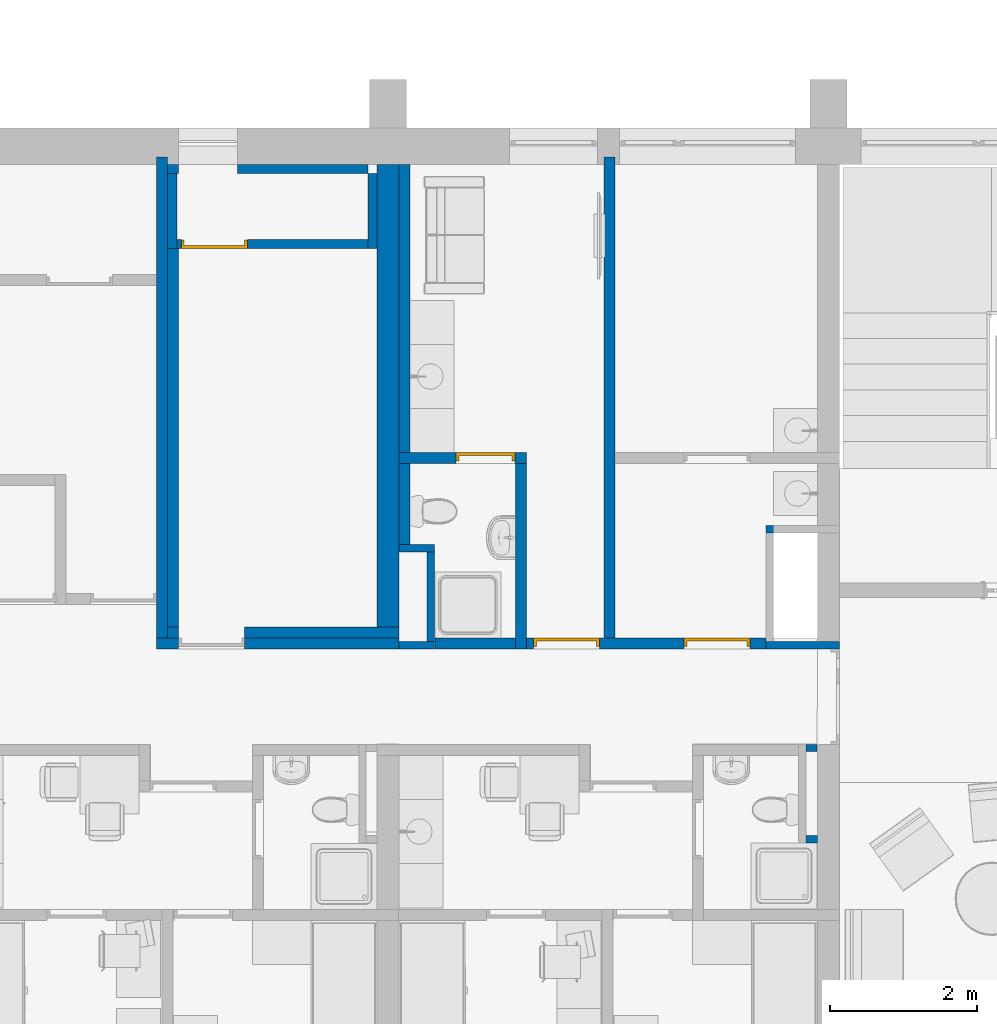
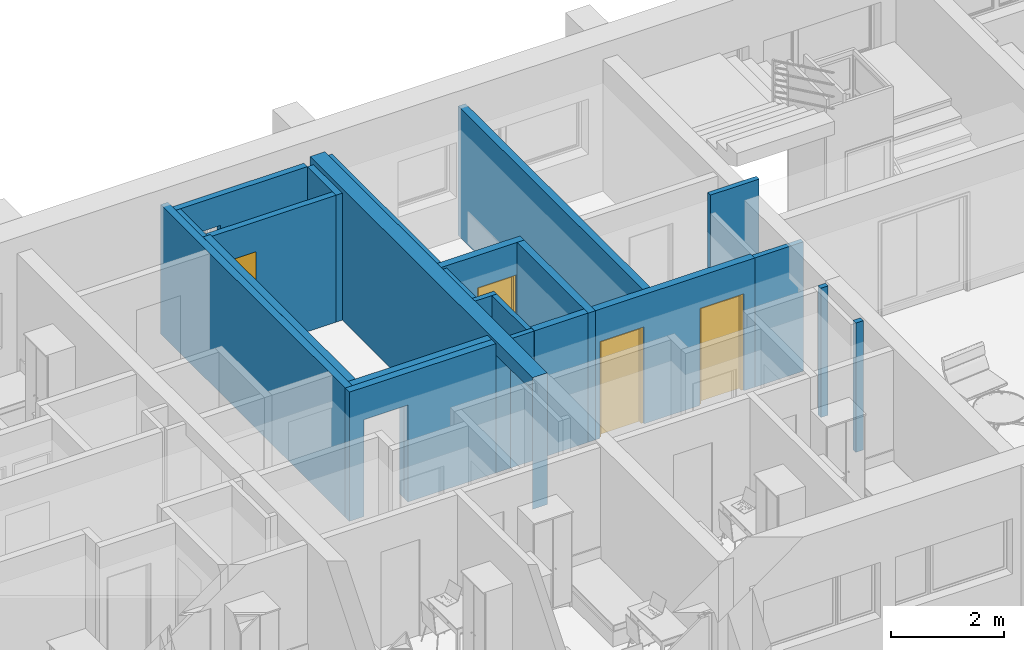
# One storey, part 12 of 165: 21 walls, 4 doors, 8 openings.
"""IFC2X3 building model written with IfcOpenShell, lengths in millimetres."""

from ifc_helpers import new_model, entity, si_unit, converted_unit, money_unit, direction, frame, origin_with_axes, place, context, subcontext, project, spatial, polyline, outline, extrude, faceted_brep, source, transform, mapped, material, material_list, layer, layer_set, layer_usage, type_object, element, fill, save


model = new_model("IFC2X3")

# Units and contexts
model_context = context("Model", 3, precision=1e-05, world=origin_with_axes(), true_north=direction((0.0, 1.0)))
body_context = subcontext(model_context, "Body", "Model", "MODEL_VIEW")
ifc_project = project(units=[si_unit("LENGTHUNIT", "METRE", prefix="MILLI"), si_unit("AREAUNIT", "SQUARE_METRE"), si_unit("VOLUMEUNIT", "CUBIC_METRE"), converted_unit("PLANEANGLEUNIT", "DEGREE", entity("IfcPlaneAngleMeasure", 0.0174532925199), si_unit("PLANEANGLEUNIT", "RADIAN"), dimensions=[0, 0, 0, 0, 0, 0, 0]), si_unit("SOLIDANGLEUNIT", "STERADIAN"), money_unit("USD"), converted_unit("TIMEUNIT", "Year", entity("IfcTimeMeasure", 31556926.0), si_unit("TIMEUNIT", "SECOND"), dimensions=[0, 0, 0, 0, 0, 0, 0]), si_unit("MASSUNIT", "GRAM"), si_unit("THERMODYNAMICTEMPERATUREUNIT", "DEGREE_CELSIUS"), si_unit("LUMINOUSINTENSITYUNIT", "LUMEN")], contexts=[model_context])

# Site, building, storey
site_placement = place(None, origin_with_axes())
site = spatial("IfcSite", under=ifc_project, at=site_placement, Name="Site", CompositionType="ELEMENT")
building_placement = place(site_placement, origin_with_axes())
building = spatial("IfcBuilding", under=site, at=building_placement, Name="Building", CompositionType="ELEMENT")
storey_placement = place(building_placement, frame((0.0, 0.0, 6300.0), z_axis=(0.0, 0.0, 1.0), x_axis=(1.0, 0.0, 0.0)))
storey = spatial("IfcBuildingStorey", under=building, at=storey_placement, Name="4KORRUS", CompositionType="ELEMENT", Elevation=6300.0)

# Wall
ifc_material_1 = material(Name="UmbKipsplaat")
ifc_layer_1 = layer(ifc_material_1, 13.0, ventilated="UNKNOWN")
ifc_layer_2 = layer(ifc_material_1, 13.0, ventilated="UNKNOWN")
ifc_material_2 = material(Name="SOOJUSTUS MINERAALVILL")
ifc_layer_3 = layer(ifc_material_2, 98.0, ventilated="UNKNOWN")
ifc_layer_4 = layer(ifc_material_1, 13.0, ventilated="UNKNOWN")
ifc_layer_5 = layer(ifc_material_1, 13.0, ventilated="UNKNOWN")
ifc_layer_set_1 = layer_set([ifc_layer_1, ifc_layer_2, ifc_layer_3, ifc_layer_4, ifc_layer_5], Name="kipssein150")
ifc_layer_usage_1 = layer_usage(ifc_layer_set_1, "AXIS2", "POSITIVE", -150.0)
wall_type_1 = type_object("IfcWallType", Name="kipssein150 150", PredefinedType="NOTDEFINED")
wall_1_placement = place(storey_placement, frame((-16253.5225768, -9065.57320461, 0.0), z_axis=(0.0, 0.0, 1.0), x_axis=(0.0, -1.0, 0.0)))
element("IfcWallStandardCase", 1, at=wall_1_placement, inside=storey, type_object=wall_type_1, material=ifc_layer_usage_1, Name="SS1", ObjectType="SS1", context=body_context, shape_type="SweptSolid", body=[
    extrude(outline(polyline([(0.0, -150.0), (2673.66669481, -150.0), (2673.66669481, 0.0), (0.0, 0.0), (0.0, -150.0)])), origin_with_axes(), (0.0, 0.0, 1.0), 2800.0),
])

# Wall, opening
ifc_layer_usage_2 = layer_usage(ifc_layer_set_1, "AXIS2", "POSITIVE", 0.0)
wall_2_placement = place(storey_placement, frame((-21143.5981675, -11589.1092262, 0.0), z_axis=(0.0, 0.0, 1.0), x_axis=(1.0, 0.0, 0.0)))
wall_2 = element("IfcWallStandardCase", 2, at=wall_2_placement, inside=storey, type_object=wall_type_1, material=ifc_layer_usage_2, Name="SS1", ObjectType="SS1", context=body_context, shape_type="SweptSolid", body=[
    extrude(outline(polyline([(0.0, 0.0), (3153.30146423, 0.0), (3153.30146423, 150.0), (0.0, 150.0), (0.0, 0.0)])), origin_with_axes(), (0.0, 0.0, 1.0), 2800.0),
])
opening_1_placement = place(wall_2_placement, frame((599.798388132, 0.0, 0.0), z_axis=(0.0, 0.0, 1.0), x_axis=(1.0, 0.0, 0.0)))
element("IfcOpeningElement", 3, at=opening_1_placement, cuts=wall_2, Name="DOO - 001", context=body_context, shape_type="SweptSolid", body=[
    extrude(outline(polyline([(-450.0, 0.0), (-450.0, -2100.0), (450.0, -2100.0), (450.0, 0.0), (-450.0, 0.0)])), frame((0.0, 150.0, 0.0), z_axis=(0.0, 1.0, 0.0), x_axis=(1.0, 0.0, 0.0)), (0.0, 0.0, 1.0), 150.0),
    extrude(outline(polyline([(-450.0, 2100.0), (-450.0, 0.0), (450.0, 0.0), (450.0, 2100.0), (-450.0, 2100.0)])), frame((0.0, 150.0, 0.0), z_axis=(0.0, -1.0, 0.0), x_axis=(1.0, 0.0, 0.0)), (0.0, 0.0, 1.0), 150.0),
])

# Wall
ifc_layer_usage_3 = layer_usage(ifc_layer_set_1, "AXIS2", "POSITIVE", -150.0)
wall_3_placement = place(storey_placement, frame((-21143.5981675, -11589.1092262, 0.0), z_axis=(0.0, 0.0, 1.0), x_axis=(0.0, 1.0, 0.0)))
element("IfcWallStandardCase", 4, at=wall_3_placement, inside=storey, type_object=wall_type_1, material=ifc_layer_usage_3, Name="SS1", ObjectType="SS1", context=body_context, shape_type="SweptSolid", body=[
    extrude(outline(polyline([(0.0, -150.0), (5305.50511743, -150.0), (5305.50511743, 0.0), (0.0, 0.0), (0.0, -150.0)])), origin_with_axes(), (0.0, 0.0, 1.0), 2800.0),
])

# Wall, opening
ifc_layer_usage_4 = layer_usage(ifc_layer_set_1, "AXIS2", "POSITIVE", 0.0)
wall_4_placement = place(storey_placement, frame((-21293.7997794, -11739.1092262, 0.0), z_axis=(0.0, 0.0, 1.0), x_axis=(1.0, 0.0, 0.0)))
wall_4 = element("IfcWallStandardCase", 5, at=wall_4_placement, inside=storey, type_object=wall_type_1, material=ifc_layer_usage_4, Name="SS1", ObjectType="SS1", context=body_context, shape_type="SweptSolid", body=[
    extrude(outline(polyline([(0.0, 0.0), (3303.5030761, 0.0), (3303.5030761, 150.0), (0.0, 150.0), (0.0, 0.0)])), origin_with_axes(), (0.0, 0.0, 1.0), 2800.0),
])
opening_2_placement = place(wall_4_placement, frame((750.0, 0.0, 0.0), z_axis=(0.0, 0.0, 1.0), x_axis=(1.0, 0.0, 0.0)))
element("IfcOpeningElement", 6, at=opening_2_placement, cuts=wall_4, Name="SU2-1", context=body_context, shape_type="SweptSolid", body=[
    extrude(outline(polyline([(-450.0, 0.0), (450.0, 0.0), (450.0, 2100.0), (-450.0, 2100.0), (-450.0, 0.0)])), frame((0.0, -150.0, 0.0), z_axis=(0.0, 1.0, 0.0), x_axis=(-1.0, 0.0, 0.0)), (0.0, 0.0, 1.0), 450.0),
])

# Wall
ifc_layer_usage_5 = layer_usage(ifc_layer_set_1, "AXIS2", "POSITIVE", -150.0)
wall_5_placement = place(storey_placement, frame((-15047.2967033, -5039.6041088, 0.0), z_axis=(0.0, 0.0, 1.0), x_axis=(0.0, -1.0, 0.0)))
element("IfcWallStandardCase", 7, at=wall_5_placement, inside=storey, type_object=wall_type_1, material=ifc_layer_usage_5, Name="SS1", ObjectType="SS1", context=body_context, shape_type="SweptSolid", body=[
    extrude(outline(polyline([(0.0, -150.0), (6699.63579061, -150.0), (6699.63579061, 0.0), (0.0, 0.0), (0.0, -150.0)])), origin_with_axes(), (0.0, 0.0, 1.0), 2800.0),
])

# Wall, opening, door
ifc_layer_usage_6 = layer_usage(ifc_layer_set_1, "AXIS2", "POSITIVE", 0.0)
wall_6_placement = place(storey_placement, frame((-16253.5225768, -9065.57320461, 0.0), z_axis=(0.0, 0.0, 1.0), x_axis=(-1.0, 0.0, 0.0)))
wall_6 = element("IfcWallStandardCase", 8, at=wall_6_placement, inside=storey, type_object=wall_type_1, material=ifc_layer_usage_6, Name="SS1", ObjectType="SS1", context=body_context, shape_type="SweptSolid", body=[
    extrude(outline(polyline([(0.0, 0.0), (1736.77412653, 0.0), (1736.77412653, 150.0), (0.0, 150.0), (0.0, 0.0)])), origin_with_axes(), (0.0, 0.0, 1.0), 2800.0),
])
opening_3_placement = place(wall_6_placement, frame((560.469369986, 0.0, 0.0), z_axis=(0.0, 0.0, 1.0), x_axis=(1.0, 0.0, 0.0)))
opening_3 = element("IfcOpeningElement", 9, at=opening_3_placement, cuts=wall_6, Name="SU3-5", context=body_context, shape_type="SweptSolid", body=[
    extrude(outline(polyline([(-400.0, -2100.0), (400.0, -2100.0), (400.0, 0.0), (-400.0, 0.0), (-400.0, -2100.0)])), frame((0.0, 150.0, 0.0), z_axis=(0.0, 1.0, 0.0), x_axis=(1.0, 0.0, 0.0)), (0.0, 0.0, -1.0), 450.0),
])
ifc_material_3 = material(Name="Background")
ifc_material_list = material_list([ifc_material_3])
door_style_1 = type_object("IfcDoorStyle", Name="Door 19", ConstructionType="NOTDEFINED", OperationType="SINGLE_SWING_LEFT", ParameterTakesPrecedence=False, Sizeable=False)
shared_shape_1 = source(origin_with_axes(), body_context, "Body", "Brep", [
    faceted_brep([(360.0, -40.0, 0.0), (360.0, -115.0, 0.0), (360.0, -115.0, 2060.0), (360.0, -40.0, 2060.0), (372.0, -40.0, 0.0), (372.0, 0.0, 0.0), (400.0, 0.0, 0.0), (400.0, -115.0, 0.0), (400.0, -115.0, 2060.0), (372.0, -40.0, 2060.0), (400.0, 0.0, 2060.0), (372.0, 0.0, 2060.0)], [[[0, 1, 2, 3]], [[4, 5, 6, 7, 1, 0]], [[2, 1, 7, 8]], [[9, 3, 2, 8, 10, 11]], [[9, 4, 0, 3]], [[11, 5, 4, 9]], [[11, 10, 6, 5]], [[7, 6, 10, 8]]]),
    faceted_brep([(-372.0, -40.0, 2060.0), (-372.0, 0.0, 2060.0), (-400.0, 0.0, 2060.0), (-400.0, -115.0, 2060.0), (-360.0, -115.0, 2060.0), (-360.0, -40.0, 2060.0), (-372.0, -40.0, 0.0), (-372.0, 0.0, 0.0), (-400.0, 0.0, 0.0), (-400.0, -115.0, 0.0), (-360.0, -115.0, 0.0), (-360.0, -40.0, 0.0)], [[[0, 1, 2, 3, 4, 5]], [[0, 6, 7, 1]], [[7, 8, 2, 1]], [[3, 2, 8, 9]], [[4, 3, 9, 10]], [[5, 4, 10, 11]], [[5, 11, 6, 0]], [[6, 11, 10, 9, 8, 7]]]),
    faceted_brep([(372.0, 0.0, 2072.0), (-372.0, 0.0, 2072.0), (-372.0, 0.0, 2060.0), (-400.0, 0.0, 2060.0), (-400.0, 0.0, 2100.0), (400.0, 0.0, 2100.0), (400.0, 0.0, 2060.0), (372.0, 0.0, 2060.0), (372.0, -40.0, 2072.0), (-372.0, -40.0, 2072.0), (-372.0, -40.0, 2060.0), (-360.0, -40.0, 2060.0), (-360.0, -115.0, 2060.0), (-400.0, -115.0, 2060.0), (-400.0, -115.0, 2100.0), (400.0, -115.0, 2100.0), (400.0, -115.0, 2060.0), (372.0, -40.0, 2060.0), (360.0, -115.0, 2060.0), (360.0, -40.0, 2060.0)], [[[0, 1, 2, 3, 4, 5, 6, 7]], [[0, 8, 9, 1]], [[1, 9, 10, 2]], [[10, 11, 12, 13, 3, 2]], [[14, 4, 3, 13]], [[15, 5, 4, 14]], [[16, 6, 5, 15]], [[17, 7, 6, 16, 18, 19]], [[7, 17, 8, 0]], [[10, 9, 8, 17, 19, 11]], [[19, 18, 12, 11]], [[13, 12, 18, 16, 15, 14]]]),
    faceted_brep([(-372.0, 0.0, 0.0), (372.0, 0.0, 0.0), (372.0, -40.0, 0.0), (-372.0, -40.0, 0.0), (-372.0, 0.0, 2072.0), (372.0, 0.0, 2072.0), (372.0, -40.0, 2072.0), (-372.0, -40.0, 2072.0)], [[[0, 1, 2, 3]], [[0, 4, 5, 1]], [[1, 5, 6, 2]], [[3, 2, 6, 7]], [[4, 0, 3, 7]], [[5, 4, 7, 6]]]),
])
door_1_placement = place(opening_3_placement, frame((400.0, 0.0, 0.0), z_axis=(0.0, 0.0, 1.0), x_axis=(-1.0, 0.0, 0.0)))
door_1 = element("IfcDoor", 10, at=door_1_placement, inside=storey, type_object=door_style_1, material=ifc_material_list, Name="SU3-5", ObjectType="Toa uks", OverallHeight=2100.0, OverallWidth=800.0, context=body_context, shape_type="MappedRepresentation", body=[
    mapped(shared_shape_1, transform((400.0, 0.0, 0.0))),
])
fill(opening_3, door_1)

# Wall
ifc_layer_usage_7 = layer_usage(ifc_layer_set_1, "AXIS2", "POSITIVE", -150.0)
wall_7_placement = place(storey_placement, frame((-21293.7997794, -11739.1092262, 0.0), z_axis=(0.0, 0.0, 1.0), x_axis=(0.0, 1.0, 0.0)))
element("IfcWallStandardCase", 11, at=wall_7_placement, inside=storey, type_object=wall_type_1, material=ifc_layer_usage_7, Name="SS1", ObjectType="SS1", context=body_context, shape_type="SweptSolid", body=[
    extrude(outline(polyline([(0.0, -150.0), (6699.50511743, -150.0), (6699.50511743, 0.0), (0.0, 0.0), (0.0, -150.0)])), origin_with_axes(), (0.0, 0.0, 1.0), 2800.0),
])

# Wall, openings, doors
ifc_layer_usage_8 = layer_usage(ifc_layer_set_1, "AXIS2", "POSITIVE", 0.0)
wall_8_placement = place(storey_placement, frame((-17503.5225768, -11739.2398994, 0.0), z_axis=(0.0, 0.0, 1.0), x_axis=(1.0, 0.0, 0.0)))
wall_8 = element("IfcWallStandardCase", 12, at=wall_8_placement, inside=storey, type_object=wall_type_1, material=ifc_layer_usage_8, Name="SS1", ObjectType="SS1", context=body_context, shape_type="SweptSolid", body=[
    extrude(outline(polyline([(0.0, 0.0), (4513.22587347, 0.0), (4513.22587347, 150.0), (0.0, 150.0), (0.0, 0.0)])), origin_with_axes(), (0.0, 0.0, 1.0), 2800.0),
])
opening_4_placement = place(wall_8_placement, frame((1794.55953234, 0.0, 0.0), z_axis=(0.0, 0.0, 1.0), x_axis=(1.0, 0.0, 0.0)))
opening_4 = element("IfcOpeningElement", 13, at=opening_4_placement, cuts=wall_8, Name="SU2-6", context=body_context, shape_type="SweptSolid", body=[
    extrude(outline(polyline([(-450.0, -2100.0), (450.0, -2100.0), (450.0, 0.0), (-450.0, 0.0), (-450.0, -2100.0)])), frame((0.0, -150.0, 0.0), z_axis=(0.0, -1.0, 0.0), x_axis=(-1.0, 0.0, 0.0)), (0.0, 0.0, -1.0), 450.0),
])
opening_5_placement = place(wall_8_placement, frame((3844.81533962, 0.0, 0.0), z_axis=(0.0, 0.0, 1.0), x_axis=(1.0, 0.0, 0.0)))
opening_5 = element("IfcOpeningElement", 14, at=opening_5_placement, cuts=wall_8, Name="SU2-5", context=body_context, shape_type="SweptSolid", body=[
    extrude(outline(polyline([(-450.0, -2100.0), (450.0, -2100.0), (450.0, 0.0), (-450.0, 0.0), (-450.0, -2100.0)])), frame((0.0, -150.0, 0.0), z_axis=(0.0, 1.0, 0.0), x_axis=(1.0, 0.0, 0.0)), (0.0, 0.0, 1.0), 450.0),
])
door_style_2 = type_object("IfcDoorStyle", Name="Door 19", ConstructionType="NOTDEFINED", OperationType="SINGLE_SWING_LEFT", ParameterTakesPrecedence=False, Sizeable=False)
shared_shape_2 = source(origin_with_axes(), body_context, "Body", "Brep", [
    faceted_brep([(410.0, -40.0, 0.0), (410.0, -115.0, 0.0), (410.0, -115.0, 2060.0), (410.0, -40.0, 2060.0), (422.0, -40.0, 0.0), (422.0, 0.0, 0.0), (450.0, 0.0, 0.0), (450.0, -115.0, 0.0), (450.0, -115.0, 2060.0), (422.0, -40.0, 2060.0), (450.0, 0.0, 2060.0), (422.0, 0.0, 2060.0)], [[[0, 1, 2, 3]], [[4, 5, 6, 7, 1, 0]], [[2, 1, 7, 8]], [[9, 3, 2, 8, 10, 11]], [[9, 4, 0, 3]], [[11, 5, 4, 9]], [[11, 10, 6, 5]], [[7, 6, 10, 8]]]),
    faceted_brep([(-422.0, -40.0, 2060.0), (-422.0, 0.0, 2060.0), (-450.0, 0.0, 2060.0), (-450.0, -115.0, 2060.0), (-410.0, -115.0, 2060.0), (-410.0, -40.0, 2060.0), (-422.0, -40.0, 0.0), (-422.0, 0.0, 0.0), (-450.0, 0.0, 0.0), (-450.0, -115.0, 0.0), (-410.0, -115.0, 0.0), (-410.0, -40.0, 0.0)], [[[0, 1, 2, 3, 4, 5]], [[0, 6, 7, 1]], [[7, 8, 2, 1]], [[3, 2, 8, 9]], [[4, 3, 9, 10]], [[5, 4, 10, 11]], [[5, 11, 6, 0]], [[6, 11, 10, 9, 8, 7]]]),
    faceted_brep([(422.0, 0.0, 2072.0), (-422.0, 0.0, 2072.0), (-422.0, 0.0, 2060.0), (-450.0, 0.0, 2060.0), (-450.0, 0.0, 2100.0), (450.0, 0.0, 2100.0), (450.0, 0.0, 2060.0), (422.0, 0.0, 2060.0), (422.0, -40.0, 2072.0), (-422.0, -40.0, 2072.0), (-422.0, -40.0, 2060.0), (-410.0, -40.0, 2060.0), (-410.0, -115.0, 2060.0), (-450.0, -115.0, 2060.0), (-450.0, -115.0, 2100.0), (450.0, -115.0, 2100.0), (450.0, -115.0, 2060.0), (422.0, -40.0, 2060.0), (410.0, -115.0, 2060.0), (410.0, -40.0, 2060.0)], [[[0, 1, 2, 3, 4, 5, 6, 7]], [[0, 8, 9, 1]], [[1, 9, 10, 2]], [[10, 11, 12, 13, 3, 2]], [[14, 4, 3, 13]], [[15, 5, 4, 14]], [[16, 6, 5, 15]], [[17, 7, 6, 16, 18, 19]], [[7, 17, 8, 0]], [[10, 9, 8, 17, 19, 11]], [[19, 18, 12, 11]], [[13, 12, 18, 16, 15, 14]]]),
    faceted_brep([(-422.0, 0.0, 0.0), (422.0, 0.0, 0.0), (422.0, -40.0, 0.0), (-422.0, -40.0, 0.0), (-422.0, 0.0, 2072.0), (422.0, 0.0, 2072.0), (422.0, -40.0, 2072.0), (-422.0, -40.0, 2072.0)], [[[0, 1, 2, 3]], [[0, 4, 5, 1]], [[1, 5, 6, 2]], [[3, 2, 6, 7]], [[4, 0, 3, 7]], [[5, 4, 7, 6]]]),
])
door_2_placement = place(opening_4_placement, frame((-450.0, 0.0, 0.0), z_axis=(0.0, 0.0, 1.0), x_axis=(1.0, 0.0, 0.0)))
door_2 = element("IfcDoor", 15, at=door_2_placement, inside=storey, type_object=door_style_2, material=ifc_material_list, Name="SU2-6", ObjectType="Korteri välisuks", OverallHeight=2100.0, OverallWidth=900.0, context=body_context, shape_type="MappedRepresentation", body=[
    mapped(shared_shape_2, transform((450.0, 150.0, 0.0))),
])
fill(opening_4, door_2)
door_style_3 = type_object("IfcDoorStyle", Name="Door 19", ConstructionType="NOTDEFINED", OperationType="SINGLE_SWING_RIGHT", ParameterTakesPrecedence=False, Sizeable=False)
shared_shape_3 = source(origin_with_axes(), body_context, "Body", "Brep", [
    faceted_brep([(-410.0, -40.0, 0.0), (-410.0, -40.0, 2060.0), (-410.0, -115.0, 2060.0), (-410.0, -115.0, 0.0), (-422.0, -40.0, 2060.0), (-422.0, -40.0, 0.0), (-422.0, 0.0, 2060.0), (-450.0, 0.0, 2060.0), (-450.0, -115.0, 2060.0), (-450.0, -115.0, 0.0), (-450.0, 0.0, 0.0), (-422.0, 0.0, 0.0)], [[[0, 1, 2, 3]], [[4, 1, 0, 5]], [[4, 6, 7, 8, 2, 1]], [[2, 8, 9, 3]], [[5, 0, 3, 9, 10, 11]], [[6, 4, 5, 11]], [[6, 11, 10, 7]], [[9, 8, 7, 10]]]),
    faceted_brep([(422.0, -40.0, 2060.0), (410.0, -40.0, 2060.0), (410.0, -115.0, 2060.0), (450.0, -115.0, 2060.0), (450.0, 0.0, 2060.0), (422.0, 0.0, 2060.0), (422.0, -40.0, 0.0), (410.0, -40.0, 0.0), (410.0, -115.0, 0.0), (450.0, -115.0, 0.0), (450.0, 0.0, 0.0), (422.0, 0.0, 0.0)], [[[0, 1, 2, 3, 4, 5]], [[1, 0, 6, 7]], [[1, 7, 8, 2]], [[2, 8, 9, 3]], [[3, 9, 10, 4]], [[11, 5, 4, 10]], [[0, 5, 11, 6]], [[6, 11, 10, 9, 8, 7]]]),
    faceted_brep([(-422.0, 0.0, 2072.0), (-422.0, 0.0, 2060.0), (-450.0, 0.0, 2060.0), (-450.0, 0.0, 2100.0), (450.0, 0.0, 2100.0), (450.0, 0.0, 2060.0), (422.0, 0.0, 2060.0), (422.0, 0.0, 2072.0), (-422.0, -40.0, 2072.0), (-422.0, -40.0, 2060.0), (-410.0, -40.0, 2060.0), (-410.0, -115.0, 2060.0), (-450.0, -115.0, 2060.0), (-450.0, -115.0, 2100.0), (450.0, -115.0, 2100.0), (450.0, -115.0, 2060.0), (422.0, -40.0, 2060.0), (410.0, -115.0, 2060.0), (410.0, -40.0, 2060.0), (422.0, -40.0, 2072.0)], [[[0, 1, 2, 3, 4, 5, 6, 7]], [[1, 0, 8, 9]], [[9, 10, 11, 12, 2, 1]], [[12, 13, 3, 2]], [[13, 14, 4, 3]], [[14, 15, 5, 4]], [[16, 6, 5, 15, 17, 18]], [[7, 6, 16, 19]], [[0, 7, 19, 8]], [[16, 18, 10, 9, 8, 19]], [[10, 18, 17, 11]], [[15, 14, 13, 12, 11, 17]]]),
    faceted_brep([(422.0, 0.0, 0.0), (422.0, -40.0, 0.0), (-422.0, -40.0, 0.0), (-422.0, 0.0, 0.0), (422.0, 0.0, 2072.0), (422.0, -40.0, 2072.0), (-422.0, -40.0, 2072.0), (-422.0, 0.0, 2072.0)], [[[0, 1, 2, 3]], [[4, 5, 1, 0]], [[1, 5, 6, 2]], [[3, 2, 6, 7]], [[0, 3, 7, 4]], [[7, 6, 5, 4]]]),
])
door_3_placement = place(opening_5_placement, frame((-450.0, 0.0, 0.0), z_axis=(0.0, 0.0, 1.0), x_axis=(1.0, 0.0, 0.0)))
door_3 = element("IfcDoor", 16, at=door_3_placement, inside=storey, type_object=door_style_3, material=ifc_material_list, Name="SU2-5", ObjectType="Korteri välisuks", OverallHeight=2100.0, OverallWidth=900.0, context=body_context, shape_type="MappedRepresentation", body=[
    mapped(shared_shape_3, transform((450.0, 150.0, 0.0))),
])
fill(opening_5, door_3)

# Wall
ifc_layer_usage_9 = layer_usage(ifc_layer_set_1, "AXIS2", "POSITIVE", 0.0)
wall_9_placement = place(storey_placement, frame((-17990.2967033, -5139.6041088, 0.0), z_axis=(0.0, 0.0, 1.0), x_axis=(0.0, -1.0, 0.0)))
element("IfcWallStandardCase", 17, at=wall_9_placement, inside=storey, type_object=wall_type_1, material=ifc_layer_usage_9, Name="SS1", ObjectType="SS1", context=body_context, shape_type="SweptSolid", body=[
    extrude(outline(polyline([(0.0, 0.0), (5175.63579061, 0.0), (5175.63579061, 150.0), (0.0, 150.0), (0.0, 0.0)])), origin_with_axes(), (0.0, 0.0, 1.0), 2750.0),
])

# Wall, opening
ifc_material_4 = material(Name="Olemasolevad seinad tellis, uus viimistlus")
ifc_layer_6 = layer(ifc_material_4, 300.0, ventilated="UNKNOWN")
ifc_layer_set_2 = layer_set([ifc_layer_6], Name="Olemasolevad seinad tellis, uus viimistlus  300")
ifc_layer_usage_10 = layer_usage(ifc_layer_set_2, "AXIS2", "POSITIVE", 0.0)
wall_type_2 = type_object("IfcWallType", Name="Olemasolevad seinad tellis, uus viimistlus  300", PredefinedType="NOTDEFINED")
wall_10_placement = place(storey_placement, frame((-17990.2967033, -13039.3705726, 0.0), z_axis=(0.0, 0.0, 1.0), x_axis=(0.0, 1.0, 0.0)))
wall_10 = element("IfcWallStandardCase", 18, at=wall_10_placement, inside=storey, type_object=wall_type_2, material=ifc_layer_usage_10, Name="KS1", ObjectType="KS1", context=body_context, shape_type="SweptSolid", body=[
    extrude(outline(polyline([(0.0, 0.0), (7899.7664638, 0.0), (7899.7664638, 300.0), (0.0, 300.0), (0.0, 0.0)])), origin_with_axes(), (0.0, 0.0, 1.0), 2850.0),
])
opening_6_placement = place(wall_10_placement, frame((650.130673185, 0.0, 0.0), z_axis=(0.0, 0.0, 1.0), x_axis=(1.0, 0.0, 0.0)))
element("IfcOpeningElement", 19, at=opening_6_placement, cuts=wall_10, Name="DOO - 001", context=body_context, shape_type="SweptSolid", body=[
    extrude(outline(polyline([(-650.0, 2550.0), (-650.0, 0.0), (650.0, 0.0), (650.0, 2550.0), (-650.0, 2550.0)])), frame((0.0, 0.0, 0.0), z_axis=(0.0, -1.0, 0.0), x_axis=(1.0, 0.0, 0.0)), (0.0, 0.0, 1.0), 300.0),
    extrude(outline(polyline([(-650.0, 0.0), (-650.0, -2550.0), (650.0, -2550.0), (650.0, 0.0), (-650.0, 0.0)])), frame((0.0, 0.0, 0.0), z_axis=(0.0, 1.0, 0.0), x_axis=(1.0, 0.0, 0.0)), (0.0, 0.0, 1.0), 300.0),
])

# Walls
ifc_material_5 = material(Name="krohv")
ifc_layer_7 = layer(ifc_material_5, 2.0, ventilated="UNKNOWN")
ifc_layer_8 = layer(ifc_material_5, 10.0, ventilated="UNKNOWN")
ifc_material_6 = material(Name="Kergplokk")
ifc_layer_9 = layer(ifc_material_6, 76.0, ventilated="UNKNOWN")
ifc_layer_10 = layer(ifc_material_5, 10.0, ventilated="UNKNOWN")
ifc_layer_11 = layer(ifc_material_5, 2.0, ventilated="UNKNOWN")
ifc_layer_set_3 = layer_set([ifc_layer_7, ifc_layer_8, ifc_layer_9, ifc_layer_10, ifc_layer_11], Name="Kergplokk Bauroc 100")
ifc_layer_usage_11 = layer_usage(ifc_layer_set_3, "AXIS2", "POSITIVE", 0.0)
wall_type_3 = type_object("IfcWallType", Name="Kergplokk Bauroc 100 100", PredefinedType="NOTDEFINED")
wall_11_placement = place(storey_placement, frame((-17990.2967033, -11739.2398994, 0.0), z_axis=(0.0, 0.0, 1.0), x_axis=(1.0, 0.0, 0.0)))
element("IfcWallStandardCase", 20, at=wall_11_placement, inside=storey, type_object=wall_type_3, material=ifc_layer_usage_11, Name="SS2", ObjectType="SS2", context=body_context, shape_type="SweptSolid", body=[
    extrude(outline(polyline([(0.0, 0.0), (479.774126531, 0.0), (479.774126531, 100.0), (0.0, 100.0), (0.0, 0.0)])), origin_with_axes(), (0.0, 0.0, 1.0), 2800.0),
])
ifc_layer_usage_12 = layer_usage(ifc_layer_set_3, "AXIS2", "POSITIVE", 0.0)
wall_12_placement = place(storey_placement, frame((-11990.2967033, -10059.2398994, 0.0), z_axis=(0.0, 0.0, 1.0), x_axis=(-1.0, 0.0, 0.0)))
element("IfcWallStandardCase", 21, at=wall_12_placement, inside=storey, type_object=wall_type_3, material=ifc_layer_usage_12, Name="SS1", ObjectType="SS1", context=body_context, shape_type="SweptSolid", body=[
    extrude(outline(polyline([(0.0, 0.0), (1000.0, 0.0), (1000.0, 100.0), (0.0, 100.0), (0.0, 0.0)])), origin_with_axes(), (0.0, 0.0, 1.0), 3200.0),
])
ifc_layer_usage_13 = layer_usage(ifc_layer_set_3, "AXIS2", "POSITIVE", -100.0)
wall_13_placement = place(storey_placement, frame((-17990.2967033, -10315.2398994, 0.0), z_axis=(0.0, 0.0, 1.0), x_axis=(1.0, 0.0, 0.0)))
element("IfcWallStandardCase", 22, at=wall_13_placement, inside=storey, type_object=wall_type_3, material=ifc_layer_usage_13, Name="SS2", ObjectType="SS2", context=body_context, shape_type="SweptSolid", body=[
    extrude(outline(polyline([(0.0, -100.0), (479.774126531, -100.0), (479.774126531, 0.0), (0.0, 0.0), (0.0, -100.0)])), origin_with_axes(), (0.0, 0.0, 1.0), 2800.0),
])
ifc_layer_usage_14 = layer_usage(ifc_layer_set_3, "AXIS2", "POSITIVE", 0.0)
wall_14_placement = place(storey_placement, frame((-17510.5225768, -11739.2398994, 0.0), z_axis=(0.0, 0.0, 1.0), x_axis=(0.0, 1.0, 0.0)))
element("IfcWallStandardCase", 23, at=wall_14_placement, inside=storey, type_object=wall_type_3, material=ifc_layer_usage_14, Name="SS2", ObjectType="SS2", context=body_context, shape_type="SweptSolid", body=[
    extrude(outline(polyline([(0.0, 0.0), (1424.0, 0.0), (1424.0, 100.0), (0.0, 100.0), (0.0, 0.0)])), origin_with_axes(), (0.0, 0.0, 1.0), 2800.0),
])
ifc_layer_usage_15 = layer_usage(ifc_layer_set_3, "AXIS2", "POSITIVE", -100.0)
wall_15_placement = place(storey_placement, frame((-12446.2967033, -13039.3705726, 0.0), z_axis=(0.0, 0.0, 1.0), x_axis=(1.0, 0.0, 0.0)))
element("IfcWallStandardCase", 24, at=wall_15_placement, inside=storey, type_object=wall_type_3, material=ifc_layer_usage_15, Name="SS2", ObjectType="SS2", context=body_context, shape_type="SweptSolid", body=[
    extrude(outline(polyline([(0.0, -100.0), (149.711604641, -100.0), (149.711604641, 0.0), (0.0, 0.0), (0.0, -100.0)])), origin_with_axes(), (0.0, 0.0, 1.0), 2800.0),
])
ifc_layer_usage_16 = layer_usage(ifc_layer_set_3, "AXIS2", "POSITIVE", 0.0)
wall_16_placement = place(storey_placement, frame((-12990.2967033, -11739.2398994, 0.0), z_axis=(0.0, 0.0, 1.0), x_axis=(1.0, 0.0, 0.0)))
element("IfcWallStandardCase", 25, at=wall_16_placement, inside=storey, type_object=wall_type_3, material=ifc_layer_usage_16, Name="SS2", ObjectType="SS2", context=body_context, shape_type="SweptSolid", body=[
    extrude(outline(polyline([(0.0, 0.0), (1000.0, 0.0), (1000.0, 100.0), (0.0, 100.0), (0.0, 0.0)])), origin_with_axes(), (0.0, 0.0, 1.0), 2800.0),
])
ifc_layer_usage_17 = layer_usage(ifc_layer_set_3, "AXIS2", "POSITIVE", -100.0)
wall_17_placement = place(storey_placement, frame((-12290.2967033, -14380.4716262, 0.0), z_axis=(0.0, 0.0, 1.0), x_axis=(-1.0, 0.0, 0.0)))
element("IfcWallStandardCase", 26, at=wall_17_placement, inside=storey, type_object=wall_type_3, material=ifc_layer_usage_17, Name="SS2", ObjectType="SS2", context=body_context, shape_type="SweptSolid", body=[
    extrude(outline(polyline([(0.0, -100.0), (156.0, -100.0), (156.0, 0.0), (0.0, 0.0), (0.0, -100.0)])), origin_with_axes(), (0.0, 0.0, 1.0), 2800.0),
])
ifc_material_7 = material(Name="Teras")
ifc_layer_12 = layer(ifc_material_7, 12.5, ventilated="UNKNOWN")
ifc_material_8 = material(Name="Kõva mineraalvill")
ifc_layer_13 = layer(ifc_material_8, 100.0, ventilated="UNKNOWN")
ifc_layer_14 = layer(ifc_material_7, 12.5, ventilated="UNKNOWN")
ifc_layer_set_4 = layer_set([ifc_layer_12, ifc_layer_13, ifc_layer_14], Name="Plekkkattega soojustatud paneel")
ifc_layer_usage_18 = layer_usage(ifc_layer_set_4, "AXIS2", "POSITIVE", -125.0)
wall_type_4 = type_object("IfcWallType", Name="Plekkkattega soojustatud paneel 125", PredefinedType="NOTDEFINED")
wall_18_placement = place(storey_placement, frame((-18415.2967033, -6283.6041088, 0.0), z_axis=(0.0, 0.0, 1.0), x_axis=(0.0, 1.0, 0.0)))
element("IfcWallStandardCase", 27, at=wall_18_placement, inside=storey, type_object=wall_type_4, material=ifc_layer_usage_18, Name="SS3", ObjectType="SS3", context=body_context, shape_type="SweptSolid", body=[
    extrude(outline(polyline([(0.0, -125.0), (1019.0, -125.0), (1019.0, 0.0), (0.0, 0.0), (0.0, -125.0)])), origin_with_axes(), (0.0, 0.0, 1.0), 2750.0),
])

# Wall, opening
ifc_layer_usage_19 = layer_usage(ifc_layer_set_4, "AXIS2", "POSITIVE", 0.0)
wall_19_placement = place(storey_placement, frame((-21143.7997794, -5264.6041088, 0.0), z_axis=(0.0, 0.0, 1.0), x_axis=(1.0, 0.0, 0.0)))
wall_19 = element("IfcWallStandardCase", 28, at=wall_19_placement, inside=storey, type_object=wall_type_4, material=ifc_layer_usage_19, Name="SS3", ObjectType="SS3", context=body_context, shape_type="SweptSolid", body=[
    extrude(outline(polyline([(0.0, 0.0), (2728.5030761, 0.0), (2728.5030761, 125.0), (0.0, 125.0), (0.0, 0.0)])), origin_with_axes(), (0.0, 0.0, 1.0), 2750.0),
])
opening_7_placement = place(wall_19_placement, frame((550.201611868, 0.0, 0.0), z_axis=(0.0, 0.0, 1.0), x_axis=(1.0, 0.0, 0.0)))
element("IfcOpeningElement", 29, at=opening_7_placement, cuts=wall_19, Name="DOO - 001", context=body_context, shape_type="SweptSolid", body=[
    extrude(outline(polyline([(-400.0, 2100.0), (-400.0, 0.0), (400.0, 0.0), (400.0, 2100.0), (-400.0, 2100.0)])), frame((0.0, 0.0, 0.0), z_axis=(0.0, -1.0, 0.0), x_axis=(1.0, 0.0, 0.0)), (0.0, 0.0, 1.0), 125.0),
    extrude(outline(polyline([(-400.0, 0.0), (-400.0, -2100.0), (400.0, -2100.0), (400.0, 0.0), (-400.0, 0.0)])), frame((0.0, 0.0, 0.0), z_axis=(0.0, 1.0, 0.0), x_axis=(1.0, 0.0, 0.0)), (0.0, 0.0, 1.0), 125.0),
])

# Wall, opening, door
ifc_layer_usage_20 = layer_usage(ifc_layer_set_4, "AXIS2", "POSITIVE", 0.0)
wall_20_placement = place(storey_placement, frame((-21143.7997794, -6283.6041088, 0.0), z_axis=(0.0, 0.0, 1.0), x_axis=(1.0, 0.0, 0.0)))
wall_20 = element("IfcWallStandardCase", 30, at=wall_20_placement, inside=storey, type_object=wall_type_4, material=ifc_layer_usage_20, Name="SS3", ObjectType="SS3", context=body_context, shape_type="SweptSolid", body=[
    extrude(outline(polyline([(0.0, 0.0), (2728.5030761, 0.0), (2728.5030761, 125.0), (0.0, 125.0), (0.0, 0.0)])), origin_with_axes(), (0.0, 0.0, 1.0), 2750.0),
])
opening_8_placement = place(wall_20_placement, frame((636.501272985, 0.0, 0.0), z_axis=(0.0, 0.0, 1.0), x_axis=(1.0, 0.0, 0.0)))
opening_8 = element("IfcOpeningElement", 31, at=opening_8_placement, cuts=wall_20, Name="SU2-2", context=body_context, shape_type="SweptSolid", body=[
    extrude(outline(polyline([(-450.0, -2100.0), (450.0, -2100.0), (450.0, 0.0), (-450.0, 0.0), (-450.0, -2100.0)])), frame((0.0, 125.0, 0.0), z_axis=(0.0, -1.0, 0.0), x_axis=(-1.0, 0.0, 0.0)), (0.0, 0.0, 1.0), 375.0),
])
door_style_4 = type_object("IfcDoorStyle", Name="Door 19", ConstructionType="NOTDEFINED", OperationType="SINGLE_SWING_RIGHT", ParameterTakesPrecedence=False, Sizeable=False)
shared_shape_4 = source(origin_with_axes(), body_context, "Body", "Brep", [
    faceted_brep([(-410.0, -40.0, 0.0), (-410.0, -40.0, 2060.0), (-410.0, -115.0, 2060.0), (-410.0, -115.0, 0.0), (-422.0, -40.0, 2060.0), (-422.0, -40.0, 0.0), (-422.0, 0.0, 2060.0), (-450.0, 0.0, 2060.0), (-450.0, -115.0, 2060.0), (-450.0, -115.0, 0.0), (-450.0, 0.0, 0.0), (-422.0, 0.0, 0.0)], [[[0, 1, 2, 3]], [[4, 1, 0, 5]], [[4, 6, 7, 8, 2, 1]], [[2, 8, 9, 3]], [[5, 0, 3, 9, 10, 11]], [[6, 4, 5, 11]], [[6, 11, 10, 7]], [[9, 8, 7, 10]]]),
    faceted_brep([(422.0, -40.0, 2060.0), (410.0, -40.0, 2060.0), (410.0, -115.0, 2060.0), (450.0, -115.0, 2060.0), (450.0, 0.0, 2060.0), (422.0, 0.0, 2060.0), (422.0, -40.0, 0.0), (410.0, -40.0, 0.0), (410.0, -115.0, 0.0), (450.0, -115.0, 0.0), (450.0, 0.0, 0.0), (422.0, 0.0, 0.0)], [[[0, 1, 2, 3, 4, 5]], [[1, 0, 6, 7]], [[1, 7, 8, 2]], [[2, 8, 9, 3]], [[3, 9, 10, 4]], [[11, 5, 4, 10]], [[0, 5, 11, 6]], [[6, 11, 10, 9, 8, 7]]]),
    faceted_brep([(-422.0, 0.0, 2072.0), (-422.0, 0.0, 2060.0), (-450.0, 0.0, 2060.0), (-450.0, 0.0, 2100.0), (450.0, 0.0, 2100.0), (450.0, 0.0, 2060.0), (422.0, 0.0, 2060.0), (422.0, 0.0, 2072.0), (-422.0, -40.0, 2072.0), (-422.0, -40.0, 2060.0), (-410.0, -40.0, 2060.0), (-410.0, -115.0, 2060.0), (-450.0, -115.0, 2060.0), (-450.0, -115.0, 2100.0), (450.0, -115.0, 2100.0), (450.0, -115.0, 2060.0), (422.0, -40.0, 2060.0), (410.0, -115.0, 2060.0), (410.0, -40.0, 2060.0), (422.0, -40.0, 2072.0)], [[[0, 1, 2, 3, 4, 5, 6, 7]], [[1, 0, 8, 9]], [[9, 10, 11, 12, 2, 1]], [[12, 13, 3, 2]], [[13, 14, 4, 3]], [[14, 15, 5, 4]], [[16, 6, 5, 15, 17, 18]], [[7, 6, 16, 19]], [[0, 7, 19, 8]], [[16, 18, 10, 9, 8, 19]], [[10, 18, 17, 11]], [[15, 14, 13, 12, 11, 17]]]),
    faceted_brep([(422.0, 0.0, 0.0), (422.0, -40.0, 0.0), (-422.0, -40.0, 0.0), (-422.0, 0.0, 0.0), (422.0, 0.0, 2072.0), (422.0, -40.0, 2072.0), (-422.0, -40.0, 2072.0), (-422.0, 0.0, 2072.0)], [[[0, 1, 2, 3]], [[4, 5, 1, 0]], [[1, 5, 6, 2]], [[3, 2, 6, 7]], [[0, 3, 7, 4]], [[7, 6, 5, 4]]]),
])
door_4_placement = place(opening_8_placement, frame((450.0, 0.0, 0.0), z_axis=(0.0, 0.0, 1.0), x_axis=(-1.0, 0.0, 0.0)))
door_4 = element("IfcDoor", 32, at=door_4_placement, inside=storey, type_object=door_style_4, material=ifc_material_list, Name="SU2-2", ObjectType="Abiruumi uks", OverallHeight=2100.0, OverallWidth=900.0, context=body_context, shape_type="MappedRepresentation", body=[
    mapped(shared_shape_4, transform((450.0, 0.0, 0.0))),
])
fill(opening_8, door_4)

# Wall
ifc_layer_usage_21 = layer_usage(ifc_layer_set_4, "AXIS2", "POSITIVE", -125.0)
wall_21_placement = place(storey_placement, frame((-21143.7997794, -6283.6041088, 0.0), z_axis=(0.0, 0.0, 1.0), x_axis=(0.0, 1.0, 0.0)))
element("IfcWallStandardCase", 33, at=wall_21_placement, inside=storey, type_object=wall_type_4, material=ifc_layer_usage_21, Name="SS3", ObjectType="SS3", context=body_context, shape_type="SweptSolid", body=[
    extrude(outline(polyline([(0.0, -125.0), (1019.0, -125.0), (1019.0, 0.0), (0.0, 0.0), (0.0, -125.0)])), origin_with_axes(), (0.0, 0.0, 1.0), 2750.0),
])

save(model, "model.ifc")
